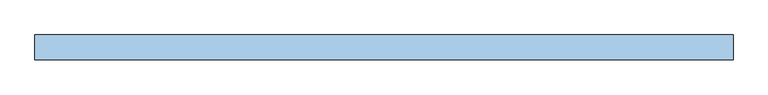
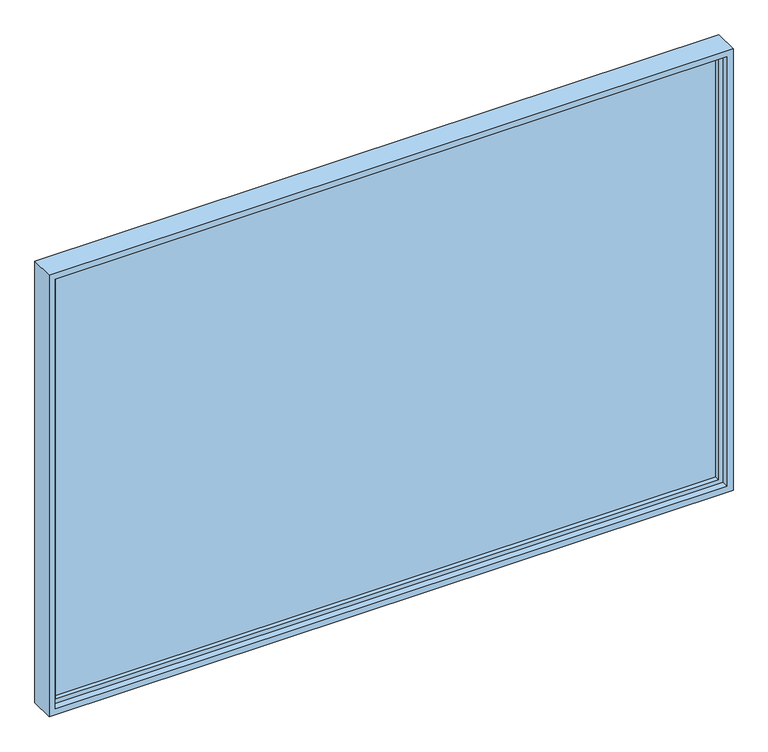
"""IFC4 building model written with IfcOpenShell, lengths in millimetres: window geometry, WD000-창 : WD000-창 4400x3000."""

from ifc_helpers import new_model, si_unit, frame, origin, place, context, project, spatial, polyline, outline, extrude, source, transform, mapped, element, save


def window_f5195b1a(model_context):
    return source(origin(), model_context, "Body", "SweptSolid", [
        extrude(outline(polyline([(2130.0, 6.0), (2130.0, -6.0), (-2130.0, -6.0), (-2130.0, 6.0), (2130.0, 6.0)])), frame((0.0, 0.0, 870.0), z_axis=(0.0, 0.0, 1.0), x_axis=(1.0, 0.0, 0.0)), (0.0, 0.0, 1.0), 2860.0),
        extrude(outline(polyline([(3760.0, -2160.0), (840.0, -2160.0), (840.0, 2160.0), (3760.0, 2160.0), (3760.0, -2160.0)]), holes=[polyline([(3730.0, 2130.0), (870.0, 2130.0), (870.0, -2130.0), (3730.0, -2130.0), (3730.0, 2130.0)])]), frame((0.0, -35.0, 0.0), z_axis=(0.0, 1.0, 0.0), x_axis=(0.0, 0.0, 1.0)), (0.0, 0.0, 1.0), 70.0),
        extrude(outline(polyline([(3800.0, 2200.0), (3800.0, -2200.0), (800.0, -2200.0), (800.0, 2200.0), (3800.0, 2200.0)]), holes=[polyline([(3760.0, 2160.0), (840.0, 2160.0), (840.0, -2160.0), (3760.0, -2160.0), (3760.0, 2160.0)])]), frame((0.0, -78.6430223, 0.0), z_axis=(0.0, 1.0, 0.0), x_axis=(0.0, 0.0, 1.0)), (0.0, 0.0, 1.0), 157.2860446),
    ])


if __name__ == "__main__":
    model = new_model("IFC4")
    model_context = context("Model", 3, world=origin())
    ifc_project = project(units=[si_unit("LENGTHUNIT", "METRE", prefix="MILLI")], contexts=[model_context])
    site = spatial("IfcSite", under=ifc_project)
    building = spatial("IfcBuilding", under=site)
    placement = place(None, origin())
    window_shape = window_f5195b1a(model_context)
    element("IfcWindow", 1, ObjectType="WD000-창 : WD000-창 4400x3000", at=placement, inside=building, context=model_context, shape_type="MappedRepresentation", body=[
        mapped(window_shape, transform((0.0, 0.0, 0.0), x_axis=(1.0, 0.0, 0.0), y_axis=(0.0, 1.0, 0.0), z_axis=(0.0, 0.0, 1.0))),
    ])
    save(model, "model.ifc")
